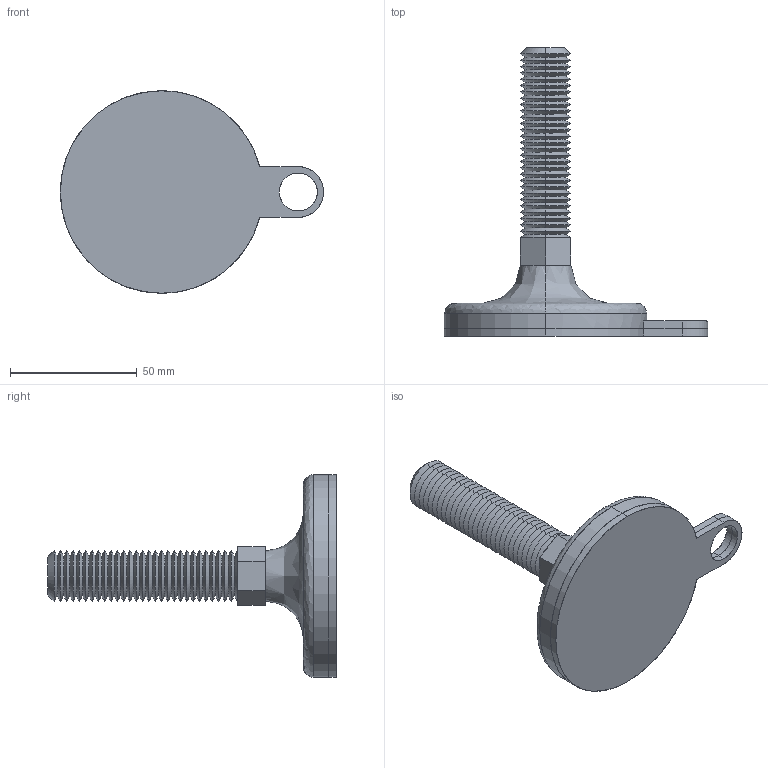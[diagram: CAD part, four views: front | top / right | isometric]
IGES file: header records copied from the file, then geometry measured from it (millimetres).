
Start section: SolidWorks IGES file using analytic representation for surfaces
Global section: file name: C:\Users\liam_\OneDrive\Documents\WORK\Work for WixRoyd\Job Files\J-00026 - Matt Davis CAD - 20191124\04. CAD Drawings\Wixroyd20191124\34704_v2\34704_v2_20191128_IGES\34704.W2000.igs; native system: SolidWorks 2017; preprocessor: SolidWorks 2017; author: liam_; date: 191128.202642; units: millimetre
Bounding box: 104 x 114 x 80 mm (x, y, z)
Surface area: 34189.1 mm2 (no closed solid volume)
Topology: 0 solids, 0 shells, 161 faces, 1276 edges, 1276 vertices
Faces by surface type: revolution 129, bspline 32
